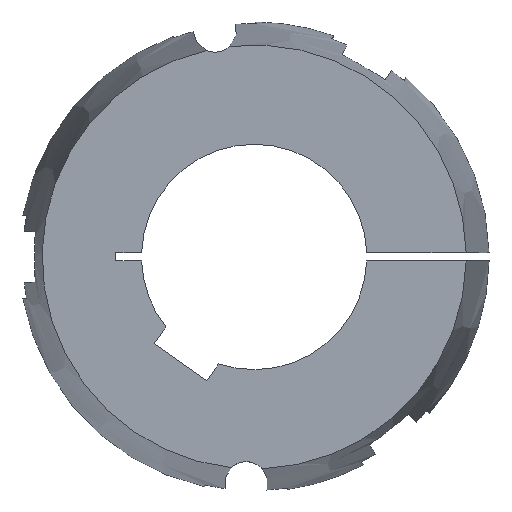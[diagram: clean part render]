
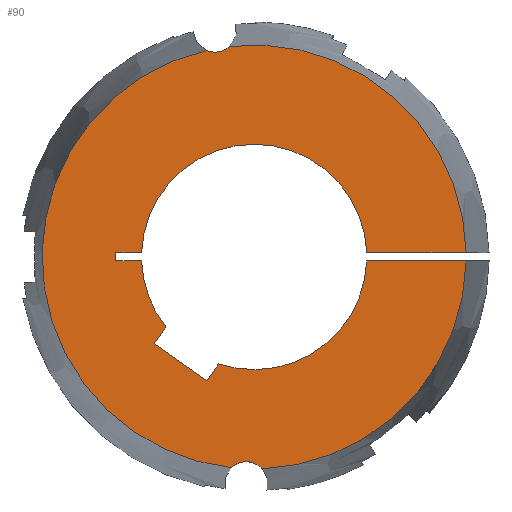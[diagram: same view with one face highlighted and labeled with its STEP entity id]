
A CAD part, left-side view. The second image highlights one B-rep face of the part: STEP entity #90.
In plain terms, the highlighted planar face has unit normal (-1, 0, 0).
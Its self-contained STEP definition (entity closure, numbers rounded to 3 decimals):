
#90 = ADVANCED_FACE( '', ( #140 ), #141, .F. );
#140 = FACE_OUTER_BOUND( '', #208, .T. );
#141 = PLANE( '', #209 );
#208 = EDGE_LOOP( '', ( #369, #370, #371, #372, #373, #374, #375, #376, #377, #378, #379, #380, #381, #382, #383, #384 ) );
#209 = AXIS2_PLACEMENT_3D( '', #385, #386, #387 );
#369 = ORIENTED_EDGE( '', *, *, #548, .F. );
#370 = ORIENTED_EDGE( '', *, *, #601, .F. );
#371 = ORIENTED_EDGE( '', *, *, #570, .T. );
#372 = ORIENTED_EDGE( '', *, *, #583, .T. );
#373 = ORIENTED_EDGE( '', *, *, #581, .T. );
#374 = ORIENTED_EDGE( '', *, *, #578, .T. );
#375 = ORIENTED_EDGE( '', *, *, #587, .T. );
#376 = ORIENTED_EDGE( '', *, *, #602, .T. );
#377 = ORIENTED_EDGE( '', *, *, #603, .T. );
#378 = ORIENTED_EDGE( '', *, *, #604, .T. );
#379 = ORIENTED_EDGE( '', *, *, #605, .T. );
#380 = ORIENTED_EDGE( '', *, *, #606, .T. );
#381 = ORIENTED_EDGE( '', *, *, #572, .T. );
#382 = ORIENTED_EDGE( '', *, *, #607, .F. );
#383 = ORIENTED_EDGE( '', *, *, #551, .F. );
#384 = ORIENTED_EDGE( '', *, *, #608, .F. );
#385 = CARTESIAN_POINT( '', ( -102., 0., 0. ) );
#386 = DIRECTION( '', ( 1., 0., 0. ) );
#387 = DIRECTION( '', ( 0., 1., 0. ) );
#548 = EDGE_CURVE( '', #649, #651, #652, .F. );
#551 = EDGE_CURVE( '', #655, #657, #658, .F. );
#570 = EDGE_CURVE( '', #693, #691, #694, .T. );
#572 = EDGE_CURVE( '', #696, #697, #698, .T. );
#578 = EDGE_CURVE( '', #709, #707, #710, .T. );
#581 = EDGE_CURVE( '', #714, #709, #715, .T. );
#583 = EDGE_CURVE( '', #691, #714, #717, .T. );
#587 = EDGE_CURVE( '', #707, #721, #723, .T. );
#601 = EDGE_CURVE( '', #693, #649, #745, .T. );
#602 = EDGE_CURVE( '', #721, #746, #747, .T. );
#603 = EDGE_CURVE( '', #746, #748, #749, .T. );
#604 = EDGE_CURVE( '', #748, #750, #751, .T. );
#605 = EDGE_CURVE( '', #750, #752, #753, .T. );
#606 = EDGE_CURVE( '', #752, #696, #754, .T. );
#607 = EDGE_CURVE( '', #657, #697, #755, .T. );
#608 = EDGE_CURVE( '', #651, #655, #756, .T. );
#649 = VERTEX_POINT( '', #815 );
#651 = VERTEX_POINT( '', #828 );
#652 = CIRCLE( '', #829, 6.75 );
#655 = VERTEX_POINT( '', #843 );
#657 = VERTEX_POINT( '', #856 );
#658 = CIRCLE( '', #857, 6.75 );
#691 = VERTEX_POINT( '', #924 );
#693 = VERTEX_POINT( '', #927 );
#694 = LINE( '', #928, #929 );
#696 = VERTEX_POINT( '', #937 );
#697 = VERTEX_POINT( '', #938 );
#698 = LINE( '', #939, #940 );
#707 = VERTEX_POINT( '', #958 );
#709 = VERTEX_POINT( '', #961 );
#710 = LINE( '', #962, #963 );
#714 = VERTEX_POINT( '', #969 );
#715 = LINE( '', #970, #971 );
#717 = CIRCLE( '', #974, 35. );
#721 = VERTEX_POINT( '', #979 );
#723 = LINE( '', #982, #983 );
#745 = CIRCLE( '', #1008, 65.867 );
#746 = VERTEX_POINT( '', #1009 );
#747 = CIRCLE( '', #1010, 35. );
#748 = VERTEX_POINT( '', #1011 );
#749 = LINE( '', #1012, #1013 );
#750 = VERTEX_POINT( '', #1014 );
#751 = LINE( '', #1015, #1016 );
#752 = VERTEX_POINT( '', #1017 );
#753 = LINE( '', #1018, #1019 );
#754 = CIRCLE( '', #1020, 35. );
#755 = CIRCLE( '', #1021, 65.867 );
#756 = CIRCLE( '', #1022, 65.867 );
#815 = CARTESIAN_POINT( '', ( -102., -2.538, -65.819 ) );
#828 = CARTESIAN_POINT( '', ( -102., 7.121, -65.481 ) );
#829 = AXIS2_PLACEMENT_3D( '', #1188, #1189, #1190 );
#843 = CARTESIAN_POINT( '', ( -102., 14.891, 64.162 ) );
#856 = CARTESIAN_POINT( '', ( -102., 7.611, 65.426 ) );
#857 = AXIS2_PLACEMENT_3D( '', #1191, #1192, #1193 );
#924 = CARTESIAN_POINT( '', ( -102., -34.978, -1.25 ) );
#927 = CARTESIAN_POINT( '', ( -102., -65.856, -1.25 ) );
#928 = CARTESIAN_POINT( '', ( -102., -73., -1.25 ) );
#929 = VECTOR( '', #1223, 1000. );
#937 = CARTESIAN_POINT( '', ( -102., -34.978, 1.25 ) );
#938 = CARTESIAN_POINT( '', ( -102., -65.856, 1.25 ) );
#939 = CARTESIAN_POINT( '', ( -102., 0., 1.25 ) );
#940 = VECTOR( '', #1224, 1000. );
#958 = CARTESIAN_POINT( '', ( -102., 31.077, -26.948 ) );
#961 = CARTESIAN_POINT( '', ( -102., 14.694, -38.42 ) );
#962 = CARTESIAN_POINT( '', ( -102., 14.694, -38.42 ) );
#963 = VECTOR( '', #1229, 1000. );
#969 = CARTESIAN_POINT( '', ( -102., 11.047, -33.211 ) );
#970 = CARTESIAN_POINT( '', ( -102., 11.047, -33.211 ) );
#971 = VECTOR( '', #1232, 1000. );
#974 = AXIS2_PLACEMENT_3D( '', #1234, #1235, #1236 );
#979 = CARTESIAN_POINT( '', ( -102., 27.43, -21.739 ) );
#982 = CARTESIAN_POINT( '', ( -102., 31.077, -26.948 ) );
#983 = VECTOR( '', #1242, 1000. );
#1008 = AXIS2_PLACEMENT_3D( '', #1276, #1277, #1278 );
#1009 = CARTESIAN_POINT( '', ( -102., 34.978, -1.25 ) );
#1010 = AXIS2_PLACEMENT_3D( '', #1279, #1280, #1281 );
#1011 = CARTESIAN_POINT( '', ( -102., 43., -1.25 ) );
#1012 = CARTESIAN_POINT( '', ( -102., 0., -1.25 ) );
#1013 = VECTOR( '', #1282, 1000. );
#1014 = CARTESIAN_POINT( '', ( -102., 43., 1.25 ) );
#1015 = CARTESIAN_POINT( '', ( -102., 43., -1.25 ) );
#1016 = VECTOR( '', #1283, 1000. );
#1017 = CARTESIAN_POINT( '', ( -102., 34.978, 1.25 ) );
#1018 = CARTESIAN_POINT( '', ( -102., 43., 1.25 ) );
#1019 = VECTOR( '', #1284, 1000. );
#1020 = AXIS2_PLACEMENT_3D( '', #1285, #1286, #1287 );
#1021 = AXIS2_PLACEMENT_3D( '', #1288, #1289, #1290 );
#1022 = AXIS2_PLACEMENT_3D( '', #1291, #1292, #1293 );
#1188 = CARTESIAN_POINT( '', ( -102., 2.456, -70.36 ) );
#1189 = DIRECTION( '', ( 1., 0., 0. ) );
#1190 = DIRECTION( '', ( 0., 1., 0. ) );
#1191 = CARTESIAN_POINT( '', ( -102., 12.218, 70.36 ) );
#1192 = DIRECTION( '', ( 1., 0., 0. ) );
#1193 = DIRECTION( '', ( 0., 1., 0. ) );
#1223 = DIRECTION( '', ( 0., 1., 0. ) );
#1224 = DIRECTION( '', ( 0., -1., 0. ) );
#1229 = DIRECTION( '', ( 0., 0.819, 0.574 ) );
#1232 = DIRECTION( '', ( 0., 0.574, -0.819 ) );
#1234 = CARTESIAN_POINT( '', ( -102., 0., 0. ) );
#1235 = DIRECTION( '', ( 1., 0., 0. ) );
#1236 = DIRECTION( '', ( 0., 0., -1. ) );
#1242 = DIRECTION( '', ( 0., -0.574, 0.819 ) );
#1276 = CARTESIAN_POINT( '', ( -102., 0., 0. ) );
#1277 = DIRECTION( '', ( 1., 0., 0. ) );
#1278 = DIRECTION( '', ( 0., 1., 0. ) );
#1279 = CARTESIAN_POINT( '', ( -102., 0., 0. ) );
#1280 = DIRECTION( '', ( 1., 0., 0. ) );
#1281 = DIRECTION( '', ( 0., 0., -1. ) );
#1282 = DIRECTION( '', ( 0., 1., 0. ) );
#1283 = DIRECTION( '', ( 0., 0., 1. ) );
#1284 = DIRECTION( '', ( 0., -1., 0. ) );
#1285 = CARTESIAN_POINT( '', ( -102., 0., 0. ) );
#1286 = DIRECTION( '', ( 1., 0., 0. ) );
#1287 = DIRECTION( '', ( 0., 0., -1. ) );
#1288 = CARTESIAN_POINT( '', ( -102., 0., 0. ) );
#1289 = DIRECTION( '', ( 1., 0., 0. ) );
#1290 = DIRECTION( '', ( 0., 1., 0. ) );
#1291 = CARTESIAN_POINT( '', ( -102., 0., 0. ) );
#1292 = DIRECTION( '', ( 1., 0., 0. ) );
#1293 = DIRECTION( '', ( 0., 1., 0. ) );
